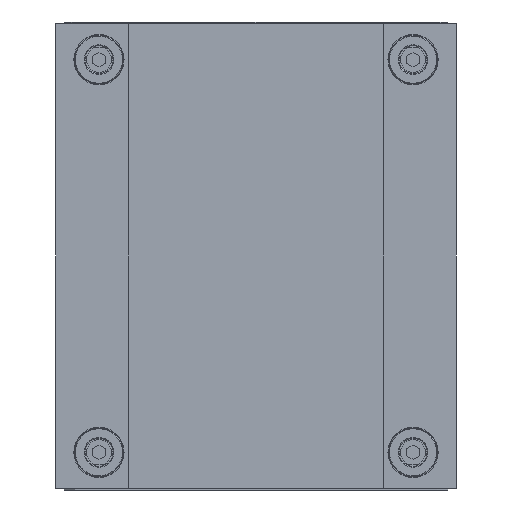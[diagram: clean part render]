
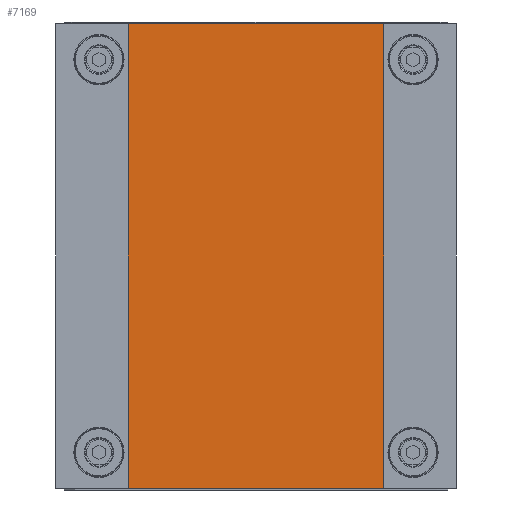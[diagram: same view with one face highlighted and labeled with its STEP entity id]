
A CAD part, front view. The second image highlights one B-rep face of the part: STEP entity #7169.
In plain terms, the highlighted planar face has unit normal (0, -1, 0).
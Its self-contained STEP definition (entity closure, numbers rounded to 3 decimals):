
#2 = ORIENTED_EDGE ( 'NONE', *, *, #338, .T. ) ;
#338 = EDGE_CURVE ( 'NONE', #6489, #6442, #7360, .T. ) ;
#474 = CARTESIAN_POINT ( 'NONE',  ( 84.5, -20., 148. ) ) ;
#821 = ORIENTED_EDGE ( 'NONE', *, *, #9061, .F. ) ;
#1077 = LINE ( 'NONE', #1078, #1079 ) ;
#1078 = CARTESIAN_POINT ( 'NONE',  ( 84.5, -20., 148. ) ) ;
#1079 = VECTOR ( 'NONE', #1080, 1000. ) ;
#1080 = DIRECTION ( 'NONE',  ( 0., 0., -1. ) ) ;
#1289 = ORIENTED_EDGE ( 'NONE', *, *, #1594, .F. ) ;
#1594 = EDGE_CURVE ( 'NONE', #6764, #8221, #7796, .T. ) ;
#2072 = ORIENTED_EDGE ( 'NONE', *, *, #6697, .T. ) ;
#3820 = CARTESIAN_POINT ( 'NONE',  ( 84.5, -20., -148. ) ) ;
#3916 = CARTESIAN_POINT ( 'NONE',  ( -84.5, -20., -148. ) ) ;
#6442 = VERTEX_POINT ( 'NONE', #3820 ) ;
#6489 = VERTEX_POINT ( 'NONE', #3916 ) ;
#6697 = EDGE_CURVE ( 'NONE', #6764, #6489, #8803, .T. ) ;
#6764 = VERTEX_POINT ( 'NONE', #9000 ) ;
#7169 = ADVANCED_FACE ( 'NONE', ( #10169 ), #10170, .F. ) ;
#7360 = LINE ( 'NONE', #7361, #7362 ) ;
#7361 = CARTESIAN_POINT ( 'NONE',  ( 84.5, -20., -148. ) ) ;
#7362 = VECTOR ( 'NONE', #7363, 1000. ) ;
#7363 = DIRECTION ( 'NONE',  ( 1., 0., 0. ) ) ;
#7796 = LINE ( 'NONE', #7797, #7798 ) ;
#7797 = CARTESIAN_POINT ( 'NONE',  ( 84.5, -20., 148. ) ) ;
#7798 = VECTOR ( 'NONE', #7799, 1000. ) ;
#7799 = DIRECTION ( 'NONE',  ( 1., 0., 0. ) ) ;
#8221 = VERTEX_POINT ( 'NONE', #474 ) ;
#8803 = LINE ( 'NONE', #8804, #8805 ) ;
#8804 = CARTESIAN_POINT ( 'NONE',  ( -84.5, -20., 148. ) ) ;
#8805 = VECTOR ( 'NONE', #8806, 1000. ) ;
#8806 = DIRECTION ( 'NONE',  ( 0., 0., -1. ) ) ;
#9000 = CARTESIAN_POINT ( 'NONE',  ( -84.5, -20., 148. ) ) ;
#9061 = EDGE_CURVE ( 'NONE', #8221, #6442, #1077, .T. ) ;
#10118 = EDGE_LOOP ( 'NONE', ( #2, #821, #1289, #2072 ) ) ;
#10169 = FACE_OUTER_BOUND ( 'NONE', #10118, .T. ) ;
#10170 = PLANE ( 'NONE',  #10171 ) ;
#10171 = AXIS2_PLACEMENT_3D ( 'NONE', #10172, #10173, #10174 ) ;
#10172 = CARTESIAN_POINT ( 'NONE',  ( 84.5, -20., 148. ) ) ;
#10173 = DIRECTION ( 'NONE',  ( 0., 1., 0. ) ) ;
#10174 = DIRECTION ( 'NONE',  ( -1., 0., 0. ) ) ;
